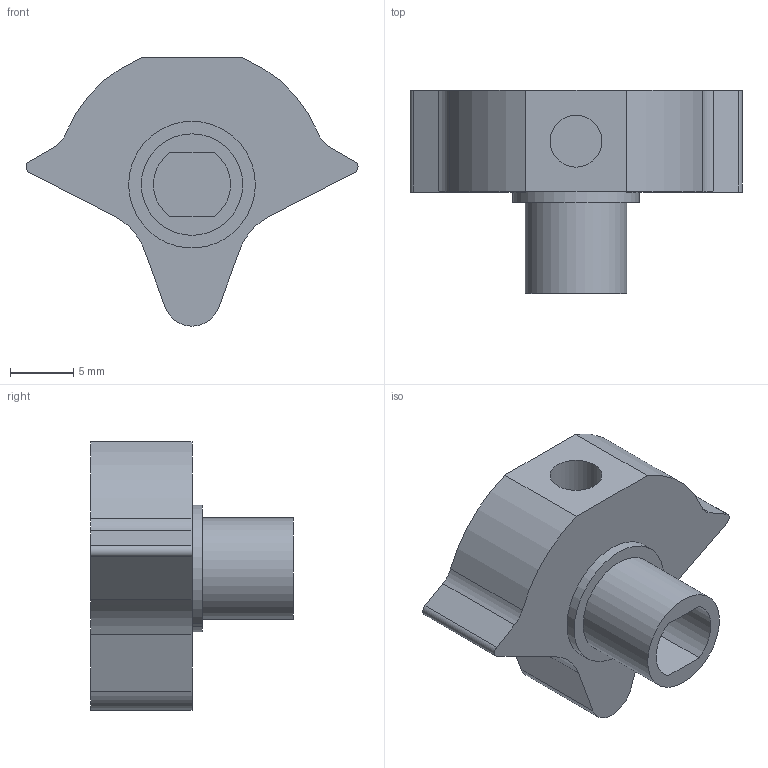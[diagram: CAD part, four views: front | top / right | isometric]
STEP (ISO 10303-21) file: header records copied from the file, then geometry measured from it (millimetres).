
FILE_DESCRIPTION(/* description */ (''),/* implementation_level */ '2;1');
FILE_NAME(/* name */ '6-14-2 Joy axle one.step',/* time_stamp */ '2025-05-10T22:37:32+02:00',/* author */ (''),/* organization */ (''),/* preprocessor_version */ 'ST-DEVELOPER v20.1',/* originating_system */ 'Autodesk Translation Framework v14.4.0.0',/* authorisation */ '');
FILE_SCHEMA (('AUTOMOTIVE_DESIGN { 1 0 10303 214 3 1 1 }'));
Length unit declared in the file: millimetre
Products named in the file (1): 6-14-2 Joy axle one
Bounding box: 26.19 x 16 x 21.17 mm (x, y, z)
Volume: 2353.5 mm3; surface area: 1662.2 mm2
Topology: 1 solids, 1 shells, 34 faces, 81 edges, 54 vertices
Faces by surface type: plane 18, cylinder 16
Full cylindrical faces by diameter (mm): 4.1 x2, 8 x1
Entity records: 1037 total; most frequent: DIRECTION 183, CARTESIAN_POINT 170, ORIENTED_EDGE 162, EDGE_CURVE 81, AXIS2_PLACEMENT_3D 67, VERTEX_POINT 54, LINE 49, VECTOR 49
